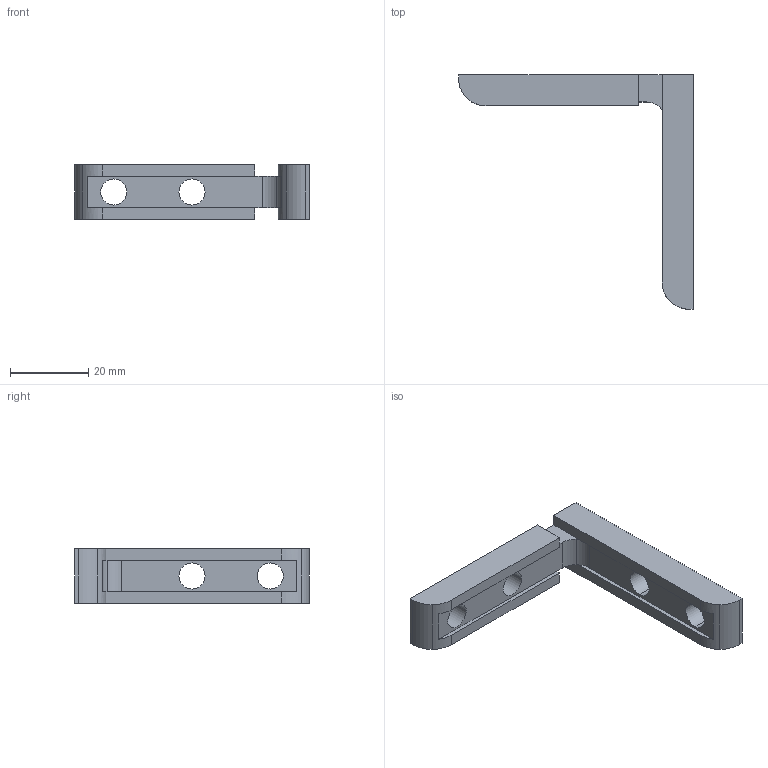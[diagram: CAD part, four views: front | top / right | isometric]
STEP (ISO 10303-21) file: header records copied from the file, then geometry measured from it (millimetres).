
FILE_DESCRIPTION (( 'STEP AP203' ), '1' );
FILE_NAME ('HLS0860.STEP', '2024-02-19T05:47:21', ( '' ), ( '' ), 'SwSTEP 2.0', 'SolidWorks 2022', '' );
FILE_SCHEMA (( 'CONFIG_CONTROL_DESIGN' ));
Length unit declared in the file: millimetre
Products named in the file (1): HLS0860
Bounding box: 60 x 60 x 14 mm (x, y, z)
Volume: 10265.8 mm3; surface area: 5519.5 mm2
Topology: 1 solids, 1 shells, 36 faces, 98 edges, 64 vertices
Faces by surface type: plane 22, cylinder 14
Entity records: 1237 total; most frequent: DIRECTION 206, CARTESIAN_POINT 199, ORIENTED_EDGE 196, EDGE_CURVE 98, AXIS2_PLACEMENT_3D 71, LINE 64, VECTOR 64, VERTEX_POINT 64
